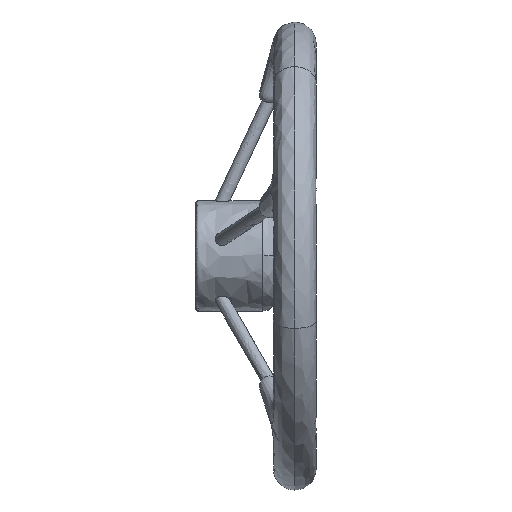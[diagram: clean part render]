
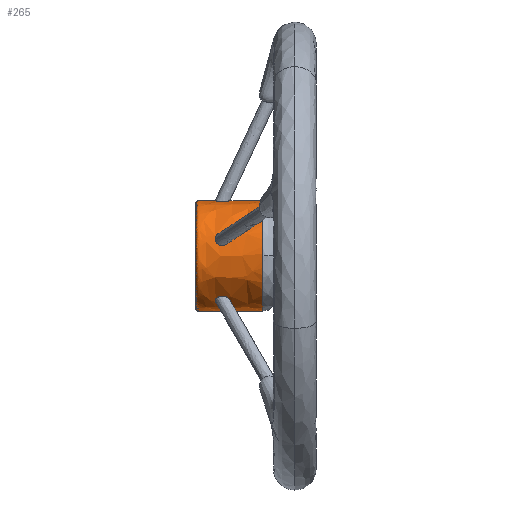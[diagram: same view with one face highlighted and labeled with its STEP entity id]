
A CAD part, left-side view. The second image highlights one B-rep face of the part: STEP entity #265.
In plain terms, the highlighted free-form (B-spline) face has degree [2, 2] with [5, 7] control points.
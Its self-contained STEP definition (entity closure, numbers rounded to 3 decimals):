
#265=ADVANCED_FACE($,(#313),#902,.T.);
#313=FACE_OUTER_BOUND($,#361,.T.);
#361=EDGE_LOOP($,(#448,#449,#450,#451));
#448=ORIENTED_EDGE($,*,*,#684,.T.);
#449=ORIENTED_EDGE($,*,*,#681,.T.);
#450=ORIENTED_EDGE($,*,*,#682,.T.);
#451=ORIENTED_EDGE($,*,*,#683,.F.);
#681=EDGE_CURVE($,#826,#827,#942,.T.);
#682=EDGE_CURVE($,#827,#829,#943,.T.);
#683=EDGE_CURVE($,#828,#829,#944,.T.);
#684=EDGE_CURVE($,#828,#826,#945,.T.);
#826=VERTEX_POINT($,#2428);
#827=VERTEX_POINT($,#2429);
#828=VERTEX_POINT($,#2430);
#829=VERTEX_POINT($,#2431);
#902=(
BOUNDED_SURFACE()
B_SPLINE_SURFACE(2,2,((#2393,#2394,#2395,#2396,#2397,#2398,#2399),(#2400,
#2401,#2402,#2403,#2404,#2405,#2406),(#2407,#2408,#2409,#2410,#2411,#2412,
#2413),(#2414,#2415,#2416,#2417,#2418,#2419,#2420),(#2421,#2422,#2423,#2424,
#2425,#2426,#2427)),.UNSPECIFIED.,.F.,.F.,.F.)
B_SPLINE_SURFACE_WITH_KNOTS((3,2,3),(3,2,2,3),(3.142,4.712,
6.283),(0.,48.,49.,49.918),
.UNSPECIFIED.)
GEOMETRIC_REPRESENTATION_ITEM()
RATIONAL_B_SPLINE_SURFACE(((1.,1.,1.,0.707,1.,1.,
1.),(0.707,0.707,0.707,
0.5,0.707,0.707,0.707),
(1.,1.,1.,0.707,1.,1.,1.),
(0.707,0.707,0.707,0.5,
0.707,0.707,0.707),(1.,1.,1.,0.707,
1.,1.,1.)))
REPRESENTATION_ITEM($)
SURFACE()
);
#942=(
BOUNDED_CURVE()
B_SPLINE_CURVE(2,(#2329,#2330,#2331,#2332,#2333,#2334,#2335),.UNSPECIFIED.,
.F.,.F.)
B_SPLINE_CURVE_WITH_KNOTS((3,2,2,3),(0.,48.,49.,
49.918),.UNSPECIFIED.)
CURVE()
GEOMETRIC_REPRESENTATION_ITEM()
RATIONAL_B_SPLINE_CURVE((1.,1.,1.,0.707,1.,1.,
1.))
REPRESENTATION_ITEM($)
);
#943=(
BOUNDED_CURVE()
B_SPLINE_CURVE(2,(#2336,#2337,#2338,#2339,#2340),.UNSPECIFIED.,.F.,.F.)
B_SPLINE_CURVE_WITH_KNOTS((3,2,3),(-6.283,-4.712,-3.142),
.UNSPECIFIED.)
CURVE()
GEOMETRIC_REPRESENTATION_ITEM()
RATIONAL_B_SPLINE_CURVE((1.,0.707,1.,0.707,1.))
REPRESENTATION_ITEM($)
);
#944=(
BOUNDED_CURVE()
B_SPLINE_CURVE(2,(#2341,#2342,#2343,#2344,#2345,#2346,#2347),.UNSPECIFIED.,
.F.,.F.)
B_SPLINE_CURVE_WITH_KNOTS((3,2,2,3),(0.,48.,49.,
49.918),.UNSPECIFIED.)
CURVE()
GEOMETRIC_REPRESENTATION_ITEM()
RATIONAL_B_SPLINE_CURVE((1.,1.,1.,0.707,1.,1.,
1.))
REPRESENTATION_ITEM($)
);
#945=(
BOUNDED_CURVE()
B_SPLINE_CURVE(2,(#2348,#2349,#2350,#2351,#2352),.UNSPECIFIED.,.F.,.F.)
B_SPLINE_CURVE_WITH_KNOTS((3,2,3),(3.142,4.712,6.283),
.UNSPECIFIED.)
CURVE()
GEOMETRIC_REPRESENTATION_ITEM()
RATIONAL_B_SPLINE_CURVE((1.,0.707,1.,0.707,1.))
REPRESENTATION_ITEM($)
);
#2329=CARTESIAN_POINT($,(0.,-50.,41.25));
#2330=CARTESIAN_POINT($,(0.,-26.,41.25));
#2331=CARTESIAN_POINT($,(0.,-2.,41.25));
#2332=CARTESIAN_POINT($,(0.,0.,41.25));
#2333=CARTESIAN_POINT($,(0.,0.,39.25));
#2334=CARTESIAN_POINT($,(0.,0.,28.125));
#2335=CARTESIAN_POINT($,(0.,0.,17.));
#2336=CARTESIAN_POINT($,(0.,0.,17.));
#2337=CARTESIAN_POINT($,(-17.,0.,17.));
#2338=CARTESIAN_POINT($,(-17.,0.,0.));
#2339=CARTESIAN_POINT($,(-17.,0.,-17.));
#2340=CARTESIAN_POINT($,(0.,0.,-17.));
#2341=CARTESIAN_POINT($,(0.,-50.,-41.25));
#2342=CARTESIAN_POINT($,(0.,-26.,-41.25));
#2343=CARTESIAN_POINT($,(0.,-2.,-41.25));
#2344=CARTESIAN_POINT($,(0.,0.,-41.25));
#2345=CARTESIAN_POINT($,(0.,0.,-39.25));
#2346=CARTESIAN_POINT($,(0.,0.,-28.125));
#2347=CARTESIAN_POINT($,(0.,0.,-17.));
#2348=CARTESIAN_POINT($,(0.,-50.,-41.25));
#2349=CARTESIAN_POINT($,(-41.25,-50.,-41.25));
#2350=CARTESIAN_POINT($,(-41.25,-50.,0.));
#2351=CARTESIAN_POINT($,(-41.25,-50.,41.25));
#2352=CARTESIAN_POINT($,(0.,-50.,41.25));
#2393=CARTESIAN_POINT($,(0.,-50.,-41.25));
#2394=CARTESIAN_POINT($,(0.,-26.,-41.25));
#2395=CARTESIAN_POINT($,(0.,-2.,-41.25));
#2396=CARTESIAN_POINT($,(0.,0.,-41.25));
#2397=CARTESIAN_POINT($,(0.,0.,-39.25));
#2398=CARTESIAN_POINT($,(0.,0.,-28.125));
#2399=CARTESIAN_POINT($,(0.,0.,-17.));
#2400=CARTESIAN_POINT($,(-41.25,-50.,-41.25));
#2401=CARTESIAN_POINT($,(-41.25,-26.,-41.25));
#2402=CARTESIAN_POINT($,(-41.25,-2.,-41.25));
#2403=CARTESIAN_POINT($,(-41.25,0.,-41.25));
#2404=CARTESIAN_POINT($,(-39.25,0.,-39.25));
#2405=CARTESIAN_POINT($,(-28.125,0.,-28.125));
#2406=CARTESIAN_POINT($,(-17.,0.,-17.));
#2407=CARTESIAN_POINT($,(-41.25,-50.,0.));
#2408=CARTESIAN_POINT($,(-41.25,-26.,0.));
#2409=CARTESIAN_POINT($,(-41.25,-2.,0.));
#2410=CARTESIAN_POINT($,(-41.25,0.,0.));
#2411=CARTESIAN_POINT($,(-39.25,0.,0.));
#2412=CARTESIAN_POINT($,(-28.125,0.,0.));
#2413=CARTESIAN_POINT($,(-17.,0.,0.));
#2414=CARTESIAN_POINT($,(-41.25,-50.,41.25));
#2415=CARTESIAN_POINT($,(-41.25,-26.,41.25));
#2416=CARTESIAN_POINT($,(-41.25,-2.,41.25));
#2417=CARTESIAN_POINT($,(-41.25,0.,41.25));
#2418=CARTESIAN_POINT($,(-39.25,0.,39.25));
#2419=CARTESIAN_POINT($,(-28.125,0.,28.125));
#2420=CARTESIAN_POINT($,(-17.,0.,17.));
#2421=CARTESIAN_POINT($,(0.,-50.,41.25));
#2422=CARTESIAN_POINT($,(0.,-26.,41.25));
#2423=CARTESIAN_POINT($,(0.,-2.,41.25));
#2424=CARTESIAN_POINT($,(0.,0.,41.25));
#2425=CARTESIAN_POINT($,(0.,0.,39.25));
#2426=CARTESIAN_POINT($,(0.,0.,28.125));
#2427=CARTESIAN_POINT($,(0.,0.,17.));
#2428=CARTESIAN_POINT($,(0.,-50.,41.25));
#2429=CARTESIAN_POINT($,(0.,0.,17.));
#2430=CARTESIAN_POINT($,(0.,-50.,-41.25));
#2431=CARTESIAN_POINT($,(0.,0.,-17.));
